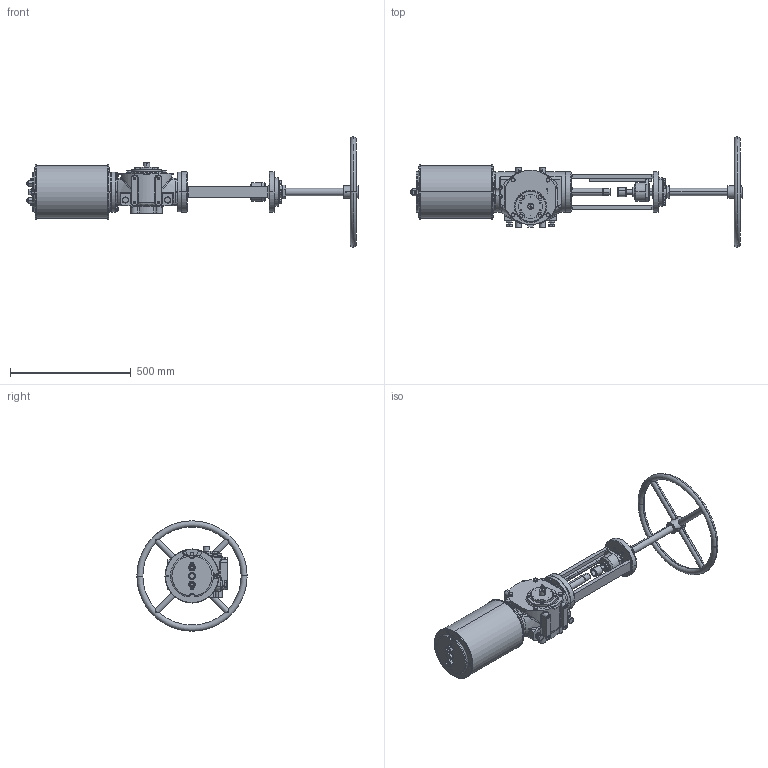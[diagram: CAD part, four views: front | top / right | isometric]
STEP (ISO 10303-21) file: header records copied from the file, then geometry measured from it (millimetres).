
FILE_DESCRIPTION (( 'STEP AP203' ), '1' );
FILE_NAME ('VTS1-200-MSD.STEP', '2023-01-01T07:39:23', ( '' ), ( '' ), 'SwSTEP 2.0', 'SolidWorks 2020', '' );
FILE_SCHEMA (( 'CONFIG_CONTROL_DESIGN' ));
Length unit declared in the file: millimetre
Products named in the file (1): VTS1-200-MSD
Bounding box: 1375.61 x 457 x 457 mm (x, y, z)
Volume: 22606286.2 mm3; surface area: 1325081 mm2
Topology: 3 solids, 23 shells, 2463 faces, 6389 edges, 4049 vertices
Faces by surface type: plane 1031, cylinder 751, cone 448, bspline 197, torus 36
Entity records: 105256 total; most frequent: CARTESIAN_POINT 48570, ORIENTED_EDGE 12598, DIRECTION 10673, EDGE_CURVE 6299, AXIS2_PLACEMENT_3D 4085, VERTEX_POINT 4049, EDGE_LOOP 2736, VECTOR 2503
